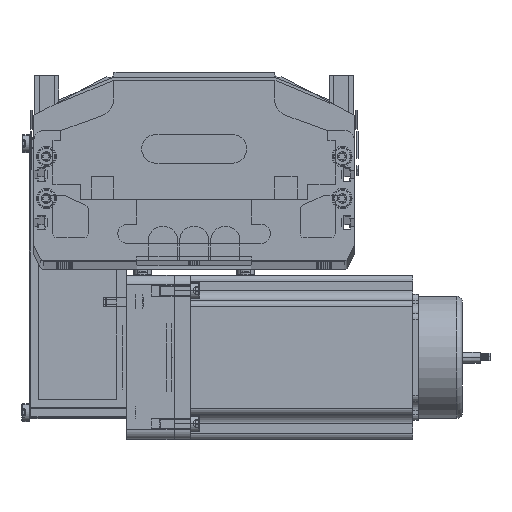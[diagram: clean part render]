
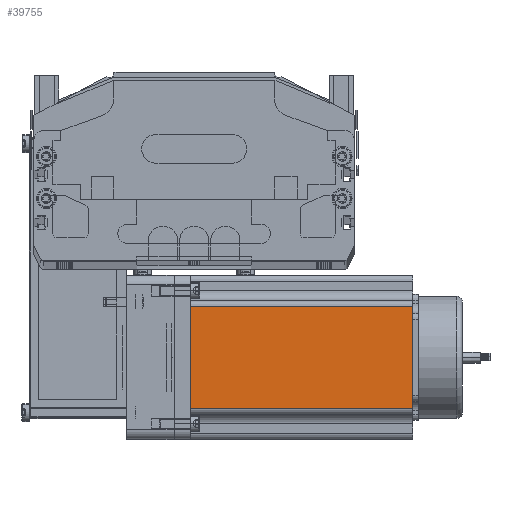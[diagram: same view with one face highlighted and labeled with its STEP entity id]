
A CAD part, top view. The second image highlights one B-rep face of the part: STEP entity #39755.
In plain terms, the highlighted planar face has unit normal (0, 0, 1) as drawn and (0, -1, 0) by its records, which use the part's own axes.
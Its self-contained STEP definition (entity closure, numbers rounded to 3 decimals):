
#6116 = VECTOR ( 'NONE', #6235, 1000. ) ;
#6201 = CARTESIAN_POINT ( 'NONE',  ( 16.16, 0., 116.5 ) ) ;
#6235 = DIRECTION ( 'NONE',  ( 0., 0., -1. ) ) ;
#6264 = LINE ( 'NONE', #6201, #6116 ) ;
#6584 = CARTESIAN_POINT ( 'NONE',  ( 16.16, 0., 116.5 ) ) ;
#19138 = LINE ( 'NONE', #19186, #19192 ) ;
#19185 = DIRECTION ( 'NONE',  ( 1., 0., 0. ) ) ;
#19186 = CARTESIAN_POINT ( 'NONE',  ( 0., 0., 0. ) ) ;
#19192 = VECTOR ( 'NONE', #19185, 1000. ) ;
#38456 = EDGE_CURVE ( 'NONE', #39765, #39760, #19138, .T. ) ;
#39422 = VERTEX_POINT ( 'NONE', #6584 ) ;
#39425 = ORIENTED_EDGE ( 'NONE', *, *, #39429, .T. ) ;
#39427 = ORIENTED_EDGE ( 'NONE', *, *, #39792, .F. ) ;
#39429 = EDGE_CURVE ( 'NONE', #39422, #39765, #6264, .T. ) ;
#39454 = ORIENTED_EDGE ( 'NONE', *, *, #39796, .T. ) ;
#39600 = EDGE_LOOP ( 'NONE', ( #39808, #39454, #39427, #39425 ) ) ;
#39755 = ADVANCED_FACE ( 'NONE', ( #80654 ), #81301, .F. ) ;
#39760 = VERTEX_POINT ( 'NONE', #82408 ) ;
#39765 = VERTEX_POINT ( 'NONE', #82366 ) ;
#39792 = EDGE_CURVE ( 'NONE', #39422, #39798, #82965, .T. ) ;
#39796 = EDGE_CURVE ( 'NONE', #39760, #39798, #82724, .T. ) ;
#39798 = VERTEX_POINT ( 'NONE', #82722 ) ;
#39808 = ORIENTED_EDGE ( 'NONE', *, *, #38456, .T. ) ;
#80568 = VECTOR ( 'NONE', #80572, 1000. ) ;
#80572 = DIRECTION ( 'NONE',  ( 0., 0., 1. ) ) ;
#80654 = FACE_OUTER_BOUND ( 'NONE', #39600, .T. ) ;
#81297 = CARTESIAN_POINT ( 'NONE',  ( 0., 0., 116.5 ) ) ;
#81299 = AXIS2_PLACEMENT_3D ( 'NONE', #81297, #81489, #81488 ) ;
#81301 = PLANE ( 'NONE',  #81299 ) ;
#81488 = DIRECTION ( 'NONE',  ( 0., 0., 1. ) ) ;
#81489 = DIRECTION ( 'NONE',  ( 0., 1., 0. ) ) ;
#82366 = CARTESIAN_POINT ( 'NONE',  ( 16.16, 0., 0. ) ) ;
#82408 = CARTESIAN_POINT ( 'NONE',  ( 69.74, 0., 0. ) ) ;
#82722 = CARTESIAN_POINT ( 'NONE',  ( 69.74, 0., 116.5 ) ) ;
#82723 = CARTESIAN_POINT ( 'NONE',  ( 69.74, 0., 116.5 ) ) ;
#82724 = LINE ( 'NONE', #82723, #80568 ) ;
#82922 = DIRECTION ( 'NONE',  ( 1., 0., 0. ) ) ;
#82924 = CARTESIAN_POINT ( 'NONE',  ( 0., 0., 116.5 ) ) ;
#82955 = VECTOR ( 'NONE', #82922, 1000. ) ;
#82965 = LINE ( 'NONE', #82924, #82955 ) ;
